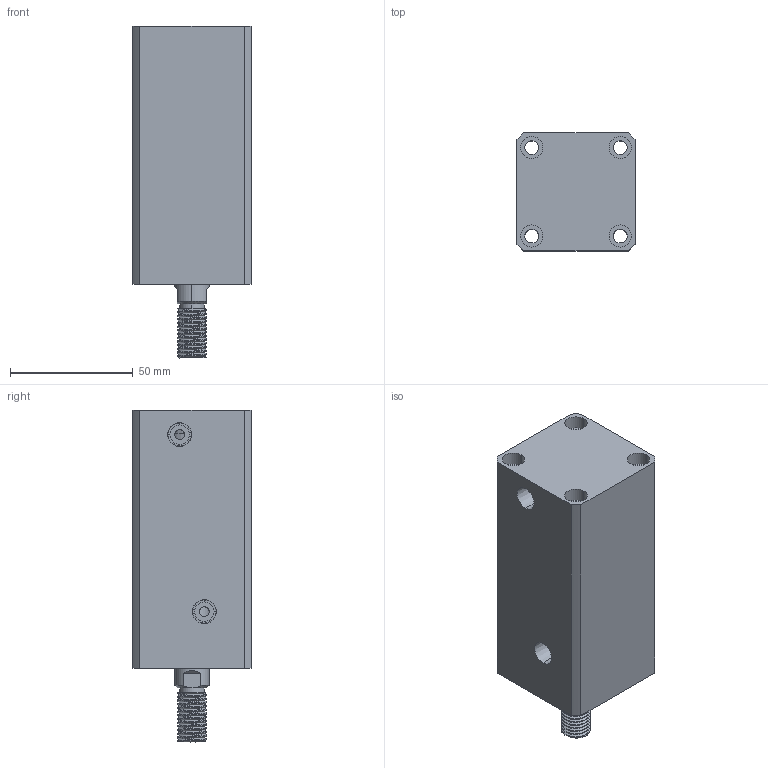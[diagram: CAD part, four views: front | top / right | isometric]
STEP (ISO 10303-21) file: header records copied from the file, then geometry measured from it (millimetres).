
FILE_DESCRIPTION (( 'STEP AP214' ), '1' );
FILE_NAME ('chtb-sd25x60w_asm.STEP', '2018-05-22T09:42:49', ( 'Windows' ), ( 'Microsoft' ), 'SwSTEP 2.0', 'SolidWorks 2015', '' );
FILE_SCHEMA (( 'AUTOMOTIVE_DESIGN' ));
Length unit declared in the file: millimetre
Products named in the file (4): CHTB-SD25X60WHSG; CHTB-SD25X60NBT; CHTB-25QG; chtb-sd25x60w_asm
Assembly tree (3 placements, depth 2):
  chtb-sd25x60w_asm
    CHTB-25QG
    CHTB-SD25X60NBT
    CHTB-SD25X60WHSG
Bounding box: 48 x 48 x 135 mm (x, y, z)
Volume: 209259.8 mm3; surface area: 53028.1 mm2
Topology: 3 solids, 3 shells, 178 faces, 474 edges, 323 vertices
Faces by surface type: cylinder 113, plane 39, cone 14, bspline 12
Entity records: 10610 total; most frequent: CARTESIAN_POINT 6273, ORIENTED_EDGE 940, DIRECTION 778, EDGE_CURVE 470, VERTEX_POINT 323, AXIS2_PLACEMENT_3D 317, EDGE_LOOP 217, FACE_OUTER_BOUND 178
